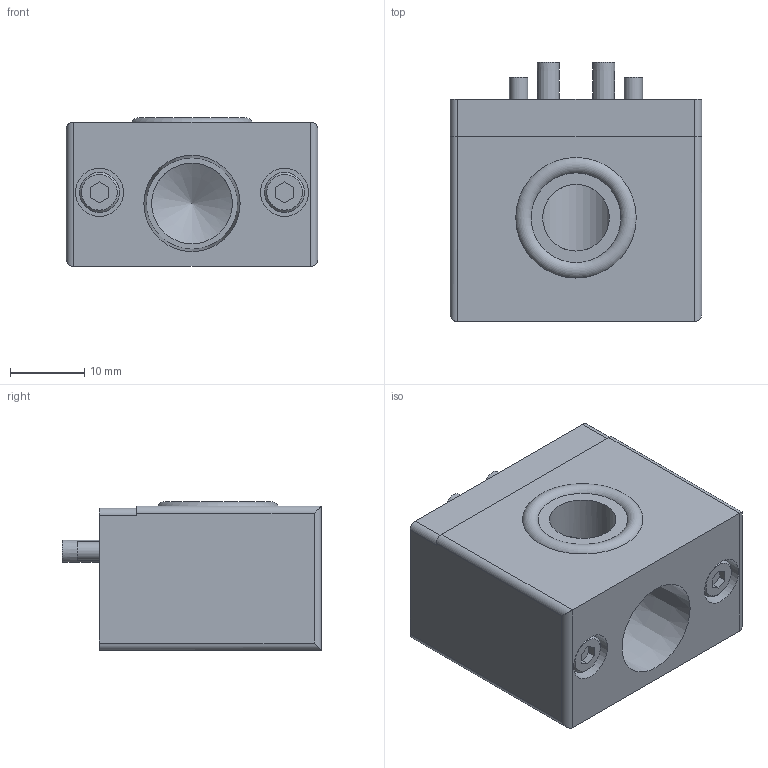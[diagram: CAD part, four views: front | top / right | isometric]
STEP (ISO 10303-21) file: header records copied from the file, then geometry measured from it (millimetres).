
FILE_DESCRIPTION(('STEP AP214'),'1');
FILE_NAME('KHF-3HS-EP81_ver1.stp','2026-04-24T01:59:31',(' '),(' '),'Spatial InterOp 3D',' ',' ');
FILE_SCHEMA(('AUTOMOTIVE_DESIGN { 1 0 10303 214 1 1 1 1 }'));
Length unit declared in the file: millimetre
Products named in the file (1): KHF-3HS-EP81_ver1
Bounding box: 34 x 35 x 20.1 mm (x, y, z)
Volume: 17004.7 mm3; surface area: 7038 mm2
Topology: 1 solids, 9 shells, 159 faces, 353 edges, 229 vertices
Faces by surface type: plane 110, cylinder 36, cone 12, torus 1
Full cylindrical faces by diameter (mm): 2.5 x8, 3 x2, 3.5 x4, 5.41 x2, 6.5 x2, 9 x1, 10.9 x1
Entity records: 5460 total; most frequent: CARTESIAN_POINT 770, DIRECTION 712, ORIENTED_EDGE 616, EDGE_CURVE 308, AXIS2_PLACEMENT_3D 245, LINE 222, VECTOR 222, VERTEX_POINT 219
